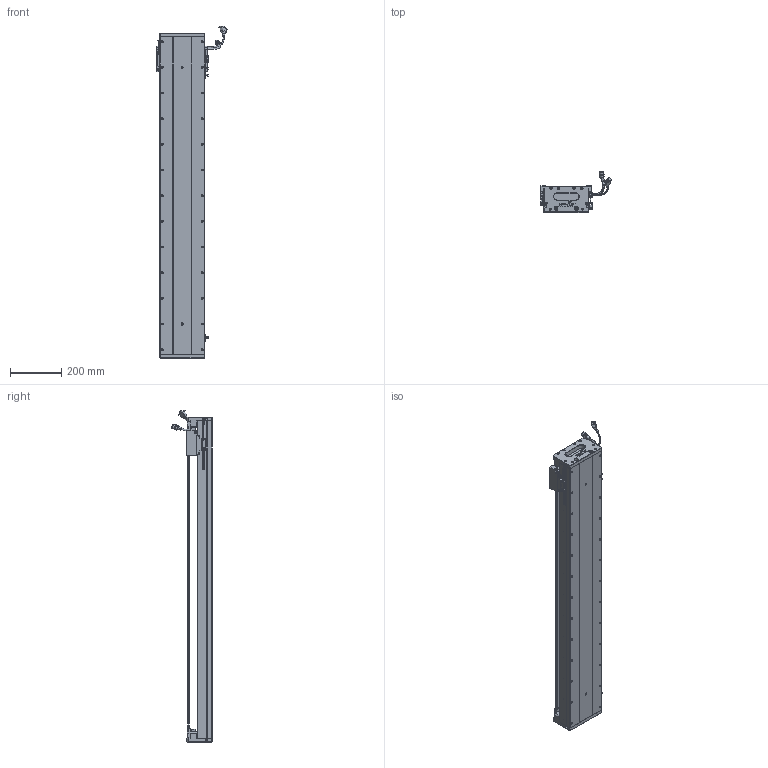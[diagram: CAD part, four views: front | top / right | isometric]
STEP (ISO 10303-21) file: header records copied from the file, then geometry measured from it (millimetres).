
FILE_DESCRIPTION (( 'STEP AP203' ), '1' );
FILE_NAME ('Z1-RY170D-1-L500-B-K.SLDASM_1050.step', '2021-05-17T08:52:24', ( '盈信电脑' ), ( '东莞市道滘镇水果街19号' ), 'SwSTEP 2.0', 'SolidWorks 2016', '' );
FILE_SCHEMA (( 'CONFIG_CONTROL_DESIGN' ));
Length unit declared in the file: millimetre
Products named in the file (36): SCREW-M1.7; Z1-RY170-L500耀郪菁釱_1050; Z-170詩湍傷裔啣; Z-RY170詩湍狟揤裔; SCREW-M1.6-3; HARNESS-Part-2; SCREW-M1.6; SCREW-M1.6-1; PBU_SHEET; SCREW-M1.6-2; Z1-RY170D-1-L500-B-K.SLDASM_1050; COVER-Part-1; HARNESS; Z1-RY170-L500詩湍145mm遵_1050; RY170直线电机感应器672光电感应片; COVER; 080黍杅芛假蚾釱21遴; SHIELDPLATE; SCREW-M1.7-1; SEAL-Part-1; LABEL-Part-1; 140雄赽晤鎢ん堤盄; PSLH080_PSLF2; SCALE-Part-2; SEAL; SCALE; Z1-RY170臏賑輸(21遴); 榋妏寠巭燃_暯_M2_2; 170-Z-臏賑輸盄裔(21遴); LABEL; HOLDER0; SCALE-Part-1; 140蚥薯蝶輸; HARNESS-Part-1; Z-RY170詩湍奻揤裔; 覜茼ん672
Assembly tree (41 placements, depth 4):
  Z1-RY170D-1-L500-B-K.SLDASM_1050
    Z1-RY170-L500耀郪菁釱_1050
    RY170直线电机感应器672光电感应片
    Z1-RY170臏賑輸(21遴)
    覜茼ん672  x3
    PSLH080_PSLF2
      SCALE
        SCALE-Part-1
        SCALE-Part-2
      HARNESS
        HARNESS-Part-1
        HARNESS-Part-2
      LABEL
        LABEL-Part-1
      COVER
        COVER-Part-1
      SEAL
        SEAL-Part-1
      榋妏寠巭燃_暯_M2_2
      SHIELDPLATE
      SCREW-M1.7
      SCREW-M1.7-1
      PBU_SHEET
      SCREW-M1.6
      SCREW-M1.6-1
      SCREW-M1.6-2
      SCREW-M1.6-3
      HOLDER0
    080黍杅芛假蚾釱21遴
    Z1-RY170-L500詩湍145mm遵_1050
    Z-170詩湍傷裔啣  x2
    Z-RY170詩湍奻揤裔  x2
    Z-RY170詩湍狟揤裔  x2
    140蚥薯蝶輸  x2
    170-Z-臏賑輸盄裔(21遴)
    140雄赽晤鎢ん堤盄
Bounding box: 275.34 x 158.11 x 1293.72 mm (x, y, z)
Volume: 6721885.9 mm3; surface area: 1672430.9 mm2
Topology: 36 solids, 36 shells, 3106 faces, 8385 edges, 5273 vertices
Faces by surface type: cylinder 1436, plane 1168, cone 380, torus 69, bspline 53
Entity records: 92369 total; most frequent: CARTESIAN_POINT 24194, ORIENTED_EDGE 13582, DIRECTION 13151, EDGE_CURVE 6791, AXIS2_PLACEMENT_3D 4796, VERTEX_POINT 4391, LINE 3559, VECTOR 3559
